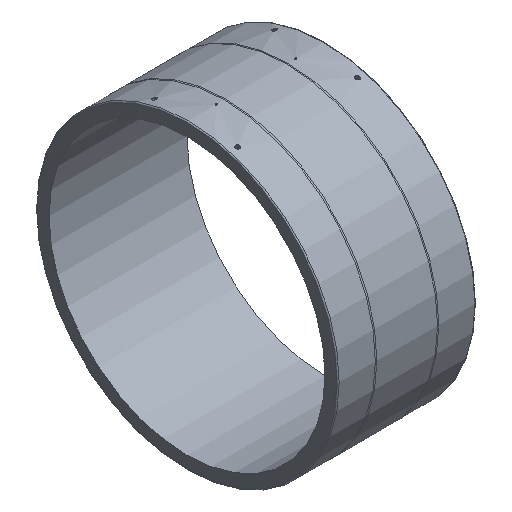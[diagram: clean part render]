
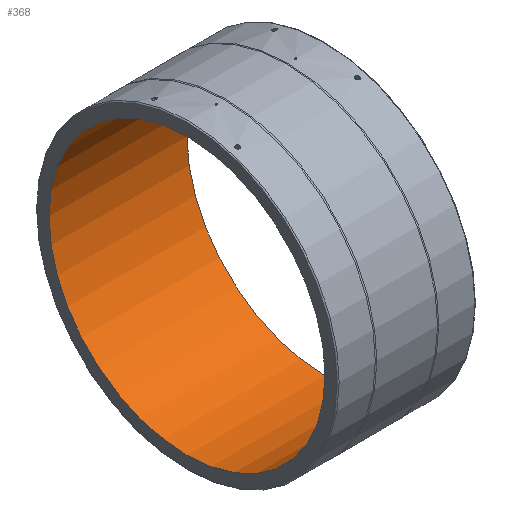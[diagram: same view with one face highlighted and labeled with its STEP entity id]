
A CAD part, isometric view. The second image highlights one B-rep face of the part: STEP entity #368.
In plain terms, the highlighted cylindrical face has radius 500 mm (diameter 1000 mm), a full revolution.
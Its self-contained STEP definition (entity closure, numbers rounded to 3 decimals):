
#48=CIRCLE('',#423,500.);
#49=CIRCLE('',#425,500.);
#85=ORIENTED_EDGE('',*,*,#147,.T.);
#86=ORIENTED_EDGE('',*,*,#146,.F.);
#146=EDGE_CURVE('',#180,#180,#48,.T.);
#147=EDGE_CURVE('',#181,#181,#49,.T.);
#180=VERTEX_POINT('',#733);
#181=VERTEX_POINT('',#736);
#231=EDGE_LOOP('',(#85));
#232=EDGE_LOOP('',(#86));
#299=FACE_BOUND('',#231,.T.);
#300=FACE_BOUND('',#232,.T.);
#350=CYLINDRICAL_SURFACE('',#424,500.);
#368=ADVANCED_FACE('',(#299,#300),#350,.F.);
#423=AXIS2_PLACEMENT_3D('',#732,#495,#496);
#424=AXIS2_PLACEMENT_3D('',#734,#497,#498);
#425=AXIS2_PLACEMENT_3D('',#735,#499,#500);
#495=DIRECTION('',(-1.,0.,0.));
#496=DIRECTION('',(0.,0.,1.));
#497=DIRECTION('',(-1.,0.,0.));
#498=DIRECTION('',(0.,0.,1.));
#499=DIRECTION('',(-1.,0.,0.));
#500=DIRECTION('',(0.,0.,1.));
#732=CARTESIAN_POINT('',(250.,0.,0.));
#733=CARTESIAN_POINT('',(250.,0.,500.));
#734=CARTESIAN_POINT('',(-25.,0.,0.));
#735=CARTESIAN_POINT('',(-250.,0.,0.));
#736=CARTESIAN_POINT('',(-250.,0.,500.));
